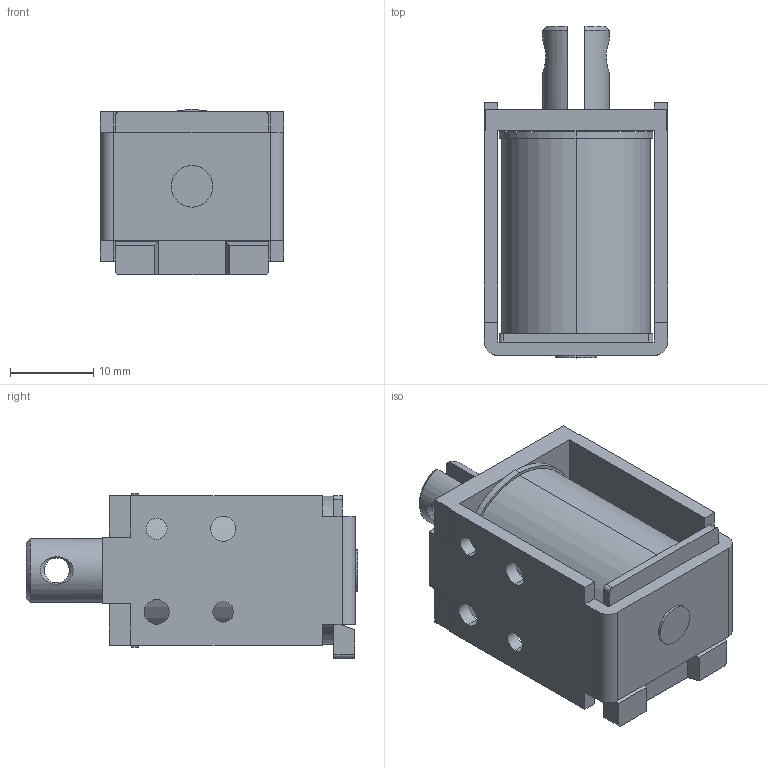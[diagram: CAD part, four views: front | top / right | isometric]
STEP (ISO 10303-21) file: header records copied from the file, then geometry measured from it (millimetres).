
FILE_DESCRIPTION (( 'STEP AP203' ), '1' );
FILE_NAME ('w_ca0830.STEP', '2014-07-11T05:12:32', ( 'jiba' ), ( 'Hewlett-Packard Company' ), 'SwSTEP 2.0', 'SolidWorks 2014', '' );
FILE_SCHEMA (( 'CONFIG_CONTROL_DESIGN' ));
Length unit declared in the file: millimetre
Products named in the file (3): Part7^w_ca0830; w_20830033A; w_ca0830
Assembly tree (2 placements, depth 2):
  w_ca0830
    Part7^w_ca0830
    w_20830033A
Bounding box: 22 x 39.9 x 19.85 mm (x, y, z)
Volume: 9603.9 mm3; surface area: 7098.3 mm2
Topology: 2 solids, 2 shells, 100 faces, 266 edges, 174 vertices
Faces by surface type: plane 58, cylinder 32, cone 10
Entity records: 3563 total; most frequent: CARTESIAN_POINT 681, DIRECTION 544, ORIENTED_EDGE 532, EDGE_CURVE 266, LINE 182, VECTOR 182, AXIS2_PLACEMENT_3D 181, VERTEX_POINT 174
